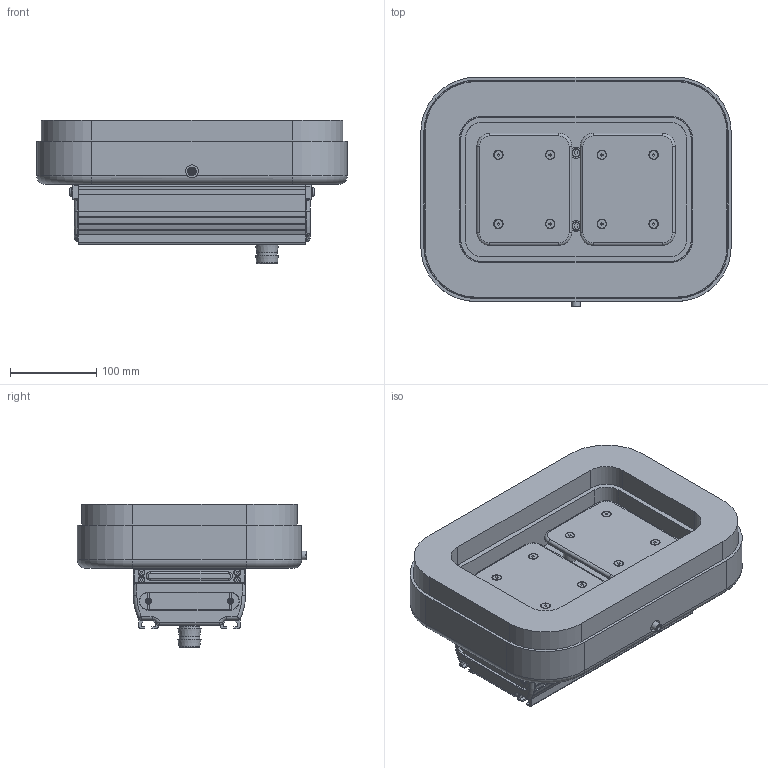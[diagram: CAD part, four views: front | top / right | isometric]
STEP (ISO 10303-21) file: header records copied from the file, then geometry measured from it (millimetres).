
FILE_DESCRIPTION(('STEP AP214'),'1');
FILE_NAME('.stp','2021-08-19T02:57:01',(' '),(' '),'Spatial InterOp 3D',' ',' ');
FILE_SCHEMA(('AUTOMOTIVE_DESIGN { 1 0 10303 214 1 1 1 1 }'));
Length unit declared in the file: millimetre
Products named in the file (106): Body Assy; SGP-000-3104(サイドカバーA); M4*10_____; _NKJ4-10; SGP-000-3105(サイドカバーB); M4*12 __________; M4*12 シールキャップボルト; CTX-0429-3001 Body; SGP-000-3107 02(上面カバー); Joint Base Assy; プラグ; Fitting25; M5_10CP; ねじ : 穴付き - M5.0 x 10.0; M4_20CP; ねじ: 穴付き - M4.0 x 20.0; Joint Base; SGP-H-250*350-CRT30-G02; Base Assy; S ring; Sponzi; CB6; ねじ: 穴付き - M6.0 x 20.0; ねじ: 穴付き - M6.0 x 12.0; shaft 03; stopper; Needle Assy; Needle; LockNut; Oring; CBSTS6-12; Base
Assembly tree (105 placements, depth 5):
  SGP-H-250*350-CRT30-G02
    Body Assy
      SGP-000-3104(サイドカバーA)
      M4*10_____
        _NKJ4-10
        _NKJ4-10
      M4*10_____
        _NKJ4-10
        _NKJ4-10
      SGP-000-3105(サイドカバーB)
      SGP-000-3105(サイドカバーB)
      M4*12 __________
        M4*12 シールキャップボルト
        M4*12 シールキャップボルト
        M4*12 シールキャップボルト
        M4*12 シールキャップボルト
      SGP-000-3104(サイドカバーA)
      M4*12 __________
        M4*12 シールキャップボルト
        M4*12 シールキャップボルト
        M4*12 シールキャップボルト
        M4*12 シールキャップボルト
      CTX-0429-3001 Body
      SGP-000-3107 02(上面カバー)
      Joint Base Assy
        プラグ
        Fitting25
        M5_10CP
          ねじ : 穴付き - M5.0 x 10.0
        M5_10CP
          ねじ : 穴付き - M5.0 x 10.0
        M5_10CP
          ねじ : 穴付き - M5.0 x 10.0
        M5_10CP
          ねじ : 穴付き - M5.0 x 10.0
        M4_20CP
          ねじ: 穴付き - M4.0 x 20.0
        M4_20CP
          ねじ: 穴付き - M4.0 x 20.0
        M4_20CP
          ねじ: 穴付き - M4.0 x 20.0
        M4_20CP
          ねじ: 穴付き - M4.0 x 20.0
        M4_20CP
          ねじ: 穴付き - M4.0 x 20.0
        M4_20CP
          ねじ: 穴付き - M4.0 x 20.0
        Joint Base
    Base Assy
      S ring
      Sponzi
      CB6
        ねじ: 穴付き - M6.0 x 20.0
      CB6
        ねじ: 穴付き - M6.0 x 20.0
      CB6
        ねじ: 穴付き - M6.0 x 20.0
      CB6
        ねじ: 穴付き - M6.0 x 20.0
      CB6
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Bounding box: 360 x 266 x 166.2 mm (x, y, z)
Volume: 4885937.7 mm3; surface area: 1049287.9 mm2
Topology: 71 solids, 71 shells, 1690 faces, 3853 edges, 2456 vertices
Faces by surface type: plane 1038, cylinder 455, cone 137, torus 50, sphere 10
Full cylindrical faces by diameter (mm): 2.5 x4, 3.3 x6, 3.35 x1, 3.571 x4, 4 x18, 4.4 x6, 4.5 x8, 4.9 x2, 5 x17, 5.5 x12, 6 x52, 6.5 x1, 6.9 x6, 7 x32, 8 x14, 8.385 x4, 9 x1, 9.87 x16, 10 x10, 11 x8, 13 x8, 15 x17, 17 x8, 20 x1, 23.474 x2, 27 x3, 54 x1
Entity records: 61285 total; most frequent: CARTESIAN_POINT 8217, DIRECTION 8211, ORIENTED_EDGE 6662, EDGE_CURVE 3331, AXIS2_PLACEMENT_3D 3103, EDGE_LOOP 2427, VERTEX_POINT 2384, LINE 2005
